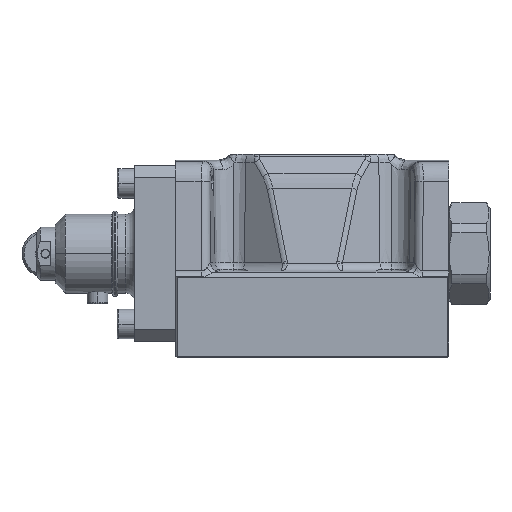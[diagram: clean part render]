
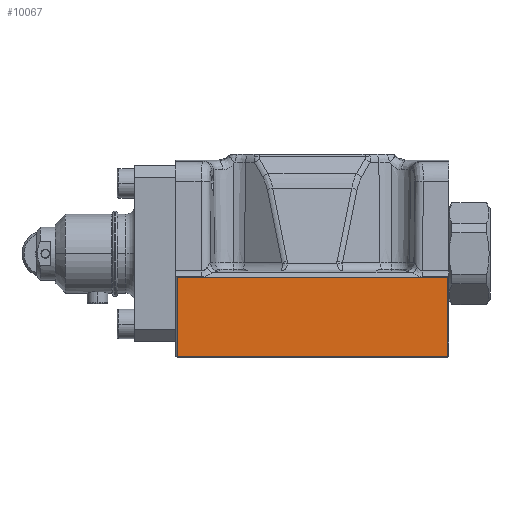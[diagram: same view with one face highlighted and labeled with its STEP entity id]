
A CAD part, top view. The second image highlights one B-rep face of the part: STEP entity #10067.
In plain terms, the highlighted planar face has unit normal (0, 0, 1).
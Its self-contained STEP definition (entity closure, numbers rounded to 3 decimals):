
#307 = VECTOR ( 'NONE', #33721, 1000. ) ;
#460 = CARTESIAN_POINT ( 'NONE',  ( -50., -8., 34. ) ) ;
#2238 = AXIS2_PLACEMENT_3D ( 'NONE', #8720, #28542, #6339 ) ;
#4500 = CARTESIAN_POINT ( 'NONE',  ( 46.1, -8., 34. ) ) ;
#5106 = LINE ( 'NONE', #35361, #31681 ) ;
#5734 = LINE ( 'NONE', #33157, #26080 ) ;
#6339 = DIRECTION ( 'NONE',  ( 0., -1., 0. ) ) ;
#8720 = CARTESIAN_POINT ( 'NONE',  ( -48., 34., 34. ) ) ;
#9873 = EDGE_CURVE ( 'NONE', #24598, #29029, #5734, .T. ) ;
#10067 = ADVANCED_FACE ( 'NONE', ( #10626 ), #22769, .T. ) ;
#10626 = FACE_OUTER_BOUND ( 'NONE', #20529, .T. ) ;
#13002 = CARTESIAN_POINT ( 'NONE',  ( -46.1, -8., 34. ) ) ;
#13544 = ORIENTED_EDGE ( 'NONE', *, *, #23629, .T. ) ;
#16127 = DIRECTION ( 'NONE',  ( 1., 0., 0. ) ) ;
#17677 = DIRECTION ( 'NONE',  ( -1., 0., 0. ) ) ;
#20130 = ORIENTED_EDGE ( 'NONE', *, *, #9873, .T. ) ;
#20529 = EDGE_LOOP ( 'NONE', ( #33441, #26496, #20130, #13544 ) ) ;
#22160 = VERTEX_POINT ( 'NONE', #4500 ) ;
#22769 = PLANE ( 'NONE',  #2238 ) ;
#22826 = CARTESIAN_POINT ( 'NONE',  ( 46.1, 34., 34. ) ) ;
#23629 = EDGE_CURVE ( 'NONE', #29029, #22160, #30324, .T. ) ;
#23692 = EDGE_CURVE ( 'NONE', #22160, #34571, #24611, .T. ) ;
#24598 = VERTEX_POINT ( 'NONE', #28622 ) ;
#24611 = LINE ( 'NONE', #460, #29427 ) ;
#26080 = VECTOR ( 'NONE', #16127, 1000. ) ;
#26496 = ORIENTED_EDGE ( 'NONE', *, *, #34143, .T. ) ;
#26868 = DIRECTION ( 'NONE',  ( 0., -1., 0. ) ) ;
#28542 = DIRECTION ( 'NONE',  ( 0., 0., 1. ) ) ;
#28622 = CARTESIAN_POINT ( 'NONE',  ( -46.1, -35., 34. ) ) ;
#29019 = CARTESIAN_POINT ( 'NONE',  ( 46.1, -35., 34. ) ) ;
#29029 = VERTEX_POINT ( 'NONE', #29019 ) ;
#29427 = VECTOR ( 'NONE', #17677, 1000. ) ;
#30324 = LINE ( 'NONE', #22826, #307 ) ;
#31681 = VECTOR ( 'NONE', #26868, 1000. ) ;
#33157 = CARTESIAN_POINT ( 'NONE',  ( -48., -35., 34. ) ) ;
#33441 = ORIENTED_EDGE ( 'NONE', *, *, #23692, .T. ) ;
#33721 = DIRECTION ( 'NONE',  ( 0., 1., 0. ) ) ;
#34143 = EDGE_CURVE ( 'NONE', #34571, #24598, #5106, .T. ) ;
#34571 = VERTEX_POINT ( 'NONE', #13002 ) ;
#35361 = CARTESIAN_POINT ( 'NONE',  ( -46.1, 34., 34. ) ) ;
